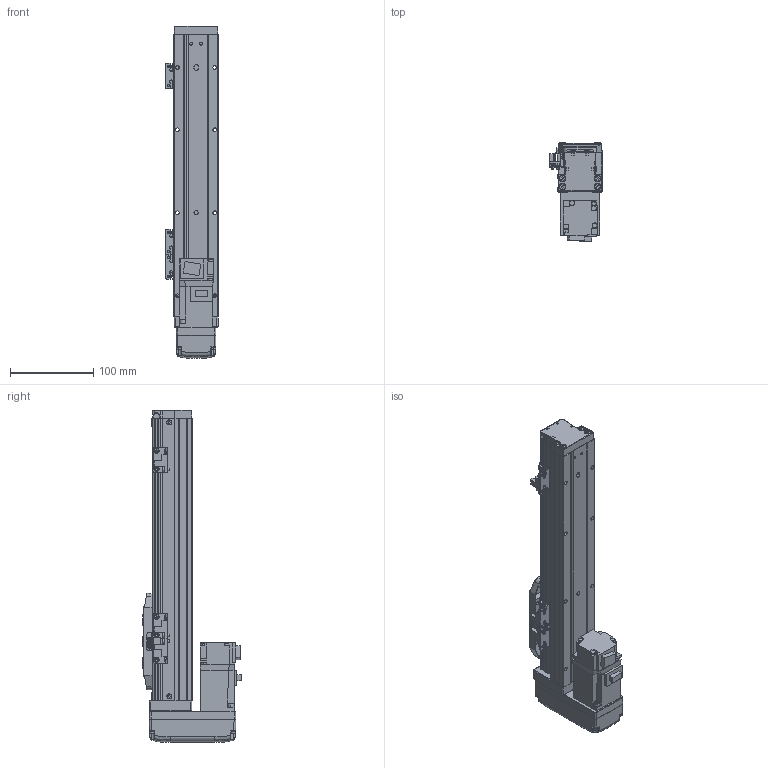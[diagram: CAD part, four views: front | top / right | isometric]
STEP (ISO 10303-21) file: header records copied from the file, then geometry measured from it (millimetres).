
FILE_DESCRIPTION (( 'STEP AP203' ), '1' );
FILE_NAME ('GTH5-200-BM-M10-C4.step', '2022-09-23T00:46:51', ( '微软用户' ), ( '微软中国' ), 'SwSTEP 2.0', 'SolidWorks 2020', '' );
FILE_SCHEMA (( 'CONFIG_CONTROL_DESIGN' ));
Length unit declared in the file: millimetre
Products named in the file (19): GTH50-004; GTH50-023; HG-KR13; GBT 70.3-M3℅6; GBT 70.1-M3℅6; GTH50-027-1_BTHA50-027-2; BTH-M3X5X6; GBT96.1-2002 3×0.8; GTH50-026; GTH50-001_200; GTH50-024; GTH5-200-BM-M10-C4; GBT 70.1-M4×16; GBT 70.1-M2.5×6; GTH50-003; GTH50-028; GTH50-006; GTH50-013; GTH50-022-1
Assembly tree (57 placements, depth 2):
  GTH5-200-BM-M10-C4
    GTH50-006
    GTH50-004
    GBT 70.3-M3℅6  x4
    BTH-M3X5X6  x8
    GTH50-001_200
    GBT 70.1-M4×16  x8
    GTH50-003
    GTH50-013
    GTH50-023  x3
    GBT 70.1-M3℅6  x12
    GBT96.1-2002 3×0.8  x6
    GTH50-024  x3
    GBT 70.1-M2.5×6  x2
    GTH50-028  x2
    GTH50-022-1
    HG-KR13
    GTH50-027-1_BTHA50-027-2
    GTH50-026
Bounding box: 63.8 x 118.9 x 400 mm (x, y, z)
Volume: 999210.6 mm3; surface area: 207412.6 mm2
Topology: 59 solids, 59 shells, 2144 faces, 4968 edges, 3044 vertices
Faces by surface type: plane 1142, cylinder 573, cone 219, torus 162, bspline 40, sphere 8
Entity records: 39568 total; most frequent: CARTESIAN_POINT 7851, DIRECTION 6073, ORIENTED_EDGE 5850, EDGE_CURVE 2925, AXIS2_PLACEMENT_3D 2104, LINE 1865, VECTOR 1865, VERTEX_POINT 1846
